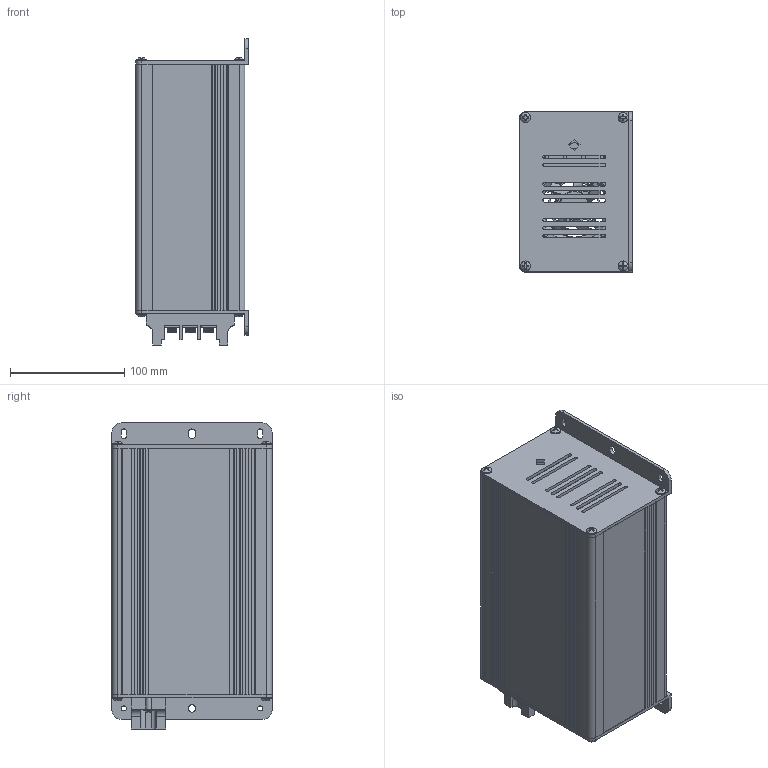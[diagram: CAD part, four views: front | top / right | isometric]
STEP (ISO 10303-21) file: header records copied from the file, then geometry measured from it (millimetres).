
FILE_DESCRIPTION(/* description */ ('','CAx-IF Rec.Pracs.---Representation and Presentation of Product Manufacturing Information (PMI)---4.0---2014-10-13'),/* implementation_level */ '2;1');
FILE_NAME(/* name */ 'H:\04_배터리_전기종\고부하용 배터리 케이스_3D\[NEW] DH 설계자용\DH215.stp',/* time_stamp */ '2022-06-16T14:44:01+09:00',/* author */ ('jjang'),/* organization */ (''),/* preprocessor_version */ 'ST-DEVELOPER v18.1',/* originating_system */ 'Autodesk Inventor 2021',/* authorisation */ '');
FILE_SCHEMA (('AP242_MANAGED_MODEL_BASED_3D_ENGINEERING_MIM_LF { 1 0 10303 442 1 1 4 }'));
Length unit declared in the file: inch
Products named in the file (1): DH215_Shrinkwrap_1
Bounding box: 98.5 x 140 x 267.5 mm (x, y, z)
Volume: 465799.4 mm3; surface area: 317197.3 mm2
Topology: 1 solids, 1 shells, 1120 faces, 3177 edges, 2075 vertices
Faces by surface type: plane 611, cylinder 362, bspline 92, torus 43, sphere 7, cone 5
Full cylindrical faces by diameter (mm): 0.9 x2, 3.8 x8, 4.3 x4, 4.4 x2, 4.5 x8, 5 x3, 5.5 x6, 6 x3, 6.5 x1, 8.584 x3, 8.6 x3, 8.8 x8, 9.2 x2, 10 x1, 25.4 x1, 55.4 x1
Entity records: 44326 total; most frequent: CARTESIAN_POINT 14417, ORIENTED_EDGE 6344, DIRECTION 5938, EDGE_CURVE 3172, AXIS2_PLACEMENT_3D 2100, VERTEX_POINT 2075, LINE 1738, VECTOR 1738
